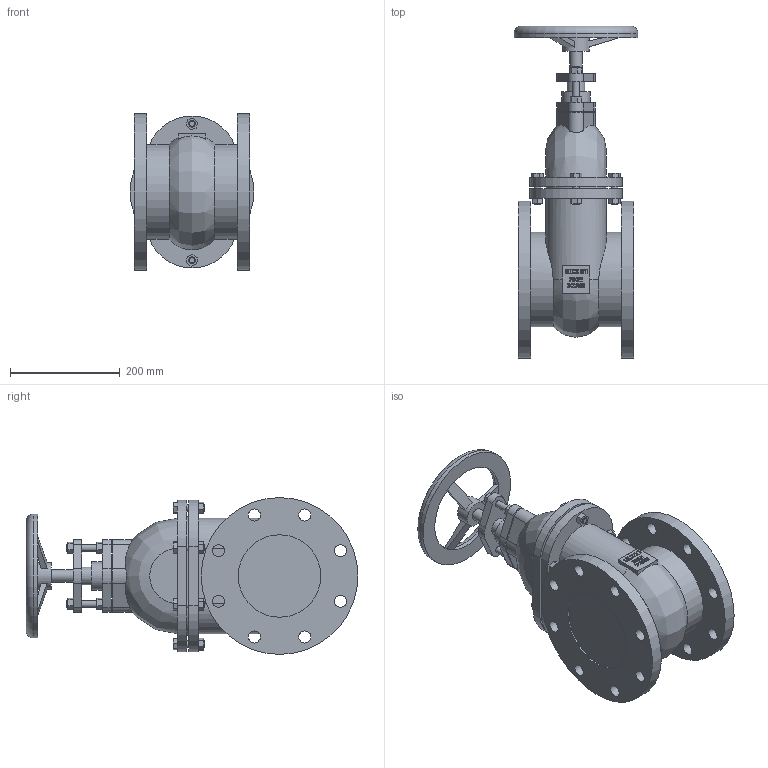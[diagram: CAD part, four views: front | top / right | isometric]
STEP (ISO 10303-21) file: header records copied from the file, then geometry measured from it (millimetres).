
FILE_DESCRIPTION(/* description */ (''),/* implementation_level */ '2;1');
FILE_NAME(/* name */ '292NOD-DN150-PN16 - 11810879.stp',/* time_stamp */ '2024-06-20T11:59:32+02:00',/* author */ ('roger.thijssen'),/* organization */ (''),/* preprocessor_version */ 'ST-DEVELOPER v20',/* originating_system */ 'Autodesk Inventor 2024',/* authorisation */ '');
FILE_SCHEMA (('AUTOMOTIVE_DESIGN { 1 0 10303 214 3 1 1 }'));
Length unit declared in the file: millimetre
Products named in the file (1): 292N-DN150-PN16 - 11810879
Bounding box: 225 x 603.5 x 285 mm (x, y, z)
Volume: 12460971.2 mm3; surface area: 677726.8 mm2
Topology: 1 solids, 1 shells, 455 faces, 1179 edges, 784 vertices
Faces by surface type: plane 291, cylinder 80, bspline 76, cone 6, torus 2
Full cylindrical faces by diameter (mm): 12 x18, 22 x17, 32 x1, 48 x1, 52 x1, 65 x1, 150 x2, 165 x1, 172 x2, 225 x1, 285 x2
Entity records: 15308 total; most frequent: CARTESIAN_POINT 3832, ORIENTED_EDGE 2358, DIRECTION 1974, EDGE_CURVE 1179, LINE 822, VECTOR 822, VERTEX_POINT 784, AXIS2_PLACEMENT_3D 576
